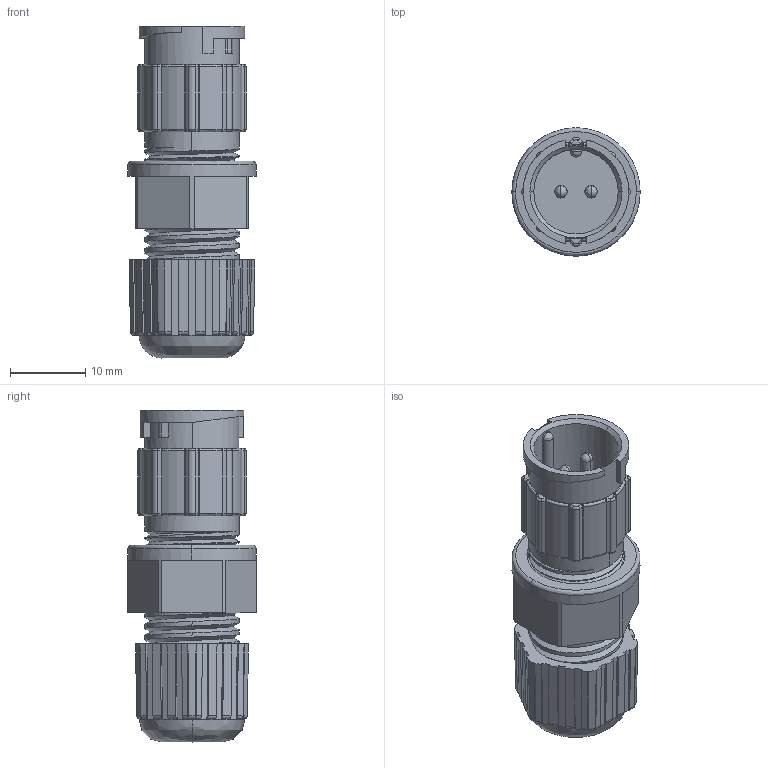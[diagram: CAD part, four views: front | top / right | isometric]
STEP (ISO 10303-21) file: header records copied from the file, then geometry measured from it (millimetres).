
FILE_DESCRIPTION (( 'STEP AP203' ), '1' );
FILE_NAME ('868-02A-103KIT.STEP', '2025-12-17T18:06:32', ( '' ), ( '' ), 'SwSTEP 2.0', 'SolidWorks 2020', '' );
FILE_SCHEMA (( 'CONFIG_CONTROL_DESIGN' ));
Length unit declared in the file: millimetre
Products named in the file (1): 868-02A-103KIT
Bounding box: 17 x 17 x 44 mm (x, y, z)
Volume: 4669 mm3; surface area: 5337.1 mm2
Topology: 1 solids, 1 shells, 536 faces, 1375 edges, 845 vertices
Faces by surface type: cylinder 190, plane 178, bspline 138, cone 30
Entity records: 29019 total; most frequent: CARTESIAN_POINT 17579, ORIENTED_EDGE 2732, DIRECTION 1864, EDGE_CURVE 1366, VERTEX_POINT 845, AXIS2_PLACEMENT_3D 688, EDGE_LOOP 553, ADVANCED_FACE 536
